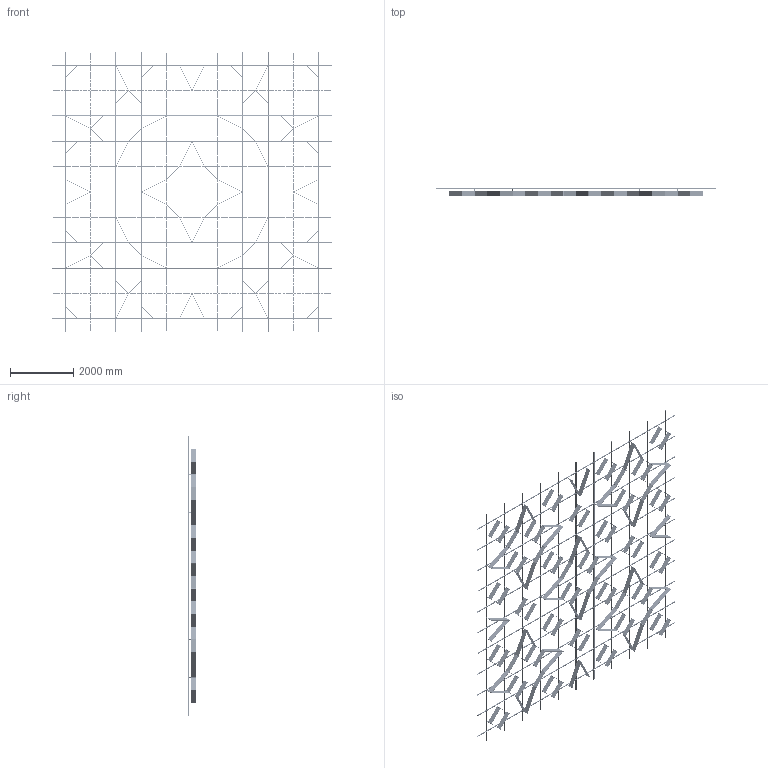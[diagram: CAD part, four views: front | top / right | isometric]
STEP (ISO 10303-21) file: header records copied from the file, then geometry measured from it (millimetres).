
FILE_DESCRIPTION (( 'STEP AP214' ), '1' );
FILE_NAME ('OPT_Var25.STEP', '2025-09-11T13:10:27', ( '' ), ( '' ), 'SwSTEP 2.0', 'SolidWorks 2020', '' );
FILE_SCHEMA (( 'AUTOMOTIVE_DESIGN' ));
Length unit declared in the file: millimetre
Products named in the file (5): 謶鎷ar25; SS.SEMA.2400 - Ñèìà-ïðîôèëü — îáðåçàí 1600; SS.SEMA.2400 - Ñèìà-ïðîôèëü; OPT_Var25; Ñèñòåìà â çîíå 8000õ8000
Assembly tree (90 placements, depth 3):
  OPT_Var25
    Ñèñòåìà â çîíå 8000õ8000
      SS.SEMA.2400 - Ñèìà-ïðîôèëü  x66
      SS.SEMA.2400 - Ñèìà-ïðîôèëü — îáðåçàí 1600  x22
    謶鎷ar25
Bounding box: 8800 x 253 x 8800 mm (x, y, z)
Volume: 165724788.6 mm3; surface area: 67412730.6 mm2
Topology: 964 solids, 964 shells, 20380 faces, 53948 edges, 35496 vertices
Faces by surface type: cylinder 13234, plane 7146
Entity records: 108901 total; most frequent: CARTESIAN_POINT 21730, DIRECTION 15618, ORIENTED_EDGE 14744, AXIS2_PLACEMENT_3D 7560, EDGE_CURVE 7372, VERTEX_POINT 4904, EDGE_LOOP 4386, ADVANCED_FACE 4224
